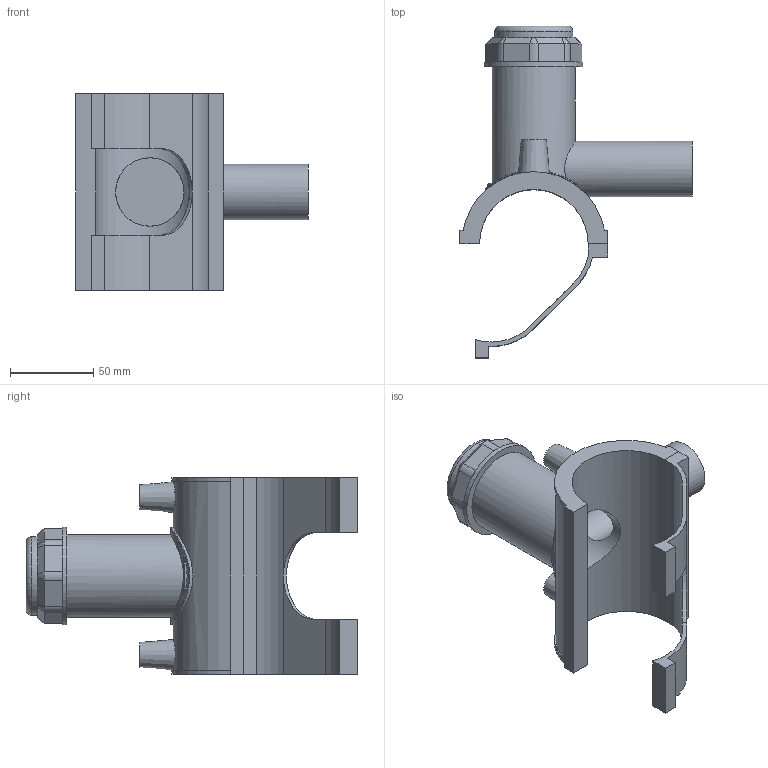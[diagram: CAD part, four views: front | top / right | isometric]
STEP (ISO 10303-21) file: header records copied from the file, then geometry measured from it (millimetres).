
FILE_DESCRIPTION(/* description */ ('PLASSON TAPPING SADDLE 2''''IPS x 1''''IPS'),/* implementation_level */ '2;1');
FILE_NAME(/* name */ 'C:\Dropbox\KIMPROJECTS-Inventor 2019\99-16-3568-Processing Inch\ASTM ElectroFusion 2021\5963B\5963BB03020010.ipt.stp',/* time_stamp */ '2021-08-30T09:55:01+03:00',/* author */ ('KIM'),/* organization */ (''),/* preprocessor_version */ 'ST-DEVELOPER v17.2',/* originating_system */ 'Autodesk Inventor 2019',/* authorisation */ '');
FILE_SCHEMA (('AUTOMOTIVE_DESIGN { 1 0 10303 214 3 1 1 }'));
Length unit declared in the file: millimetre
Products named in the file (1): 5963BB03020010
Bounding box: 139.45 x 198.92 x 118.11 mm (x, y, z)
Volume: 285503.2 mm3; surface area: 96901.6 mm2
Topology: 2 solids, 2 shells, 109 faces, 278 edges, 183 vertices
Faces by surface type: plane 64, cylinder 32, cone 11, torus 1, bspline 1
Full cylindrical faces by diameter (mm): 4 x2, 10 x2, 26.64 x1, 33.3 x1, 41.013 x1, 46.872 x1, 49.801 x1, 58.59 x1
Entity records: 3866 total; most frequent: CARTESIAN_POINT 1137, DIRECTION 565, ORIENTED_EDGE 556, EDGE_CURVE 278, AXIS2_PLACEMENT_3D 204, VERTEX_POINT 183, LINE 157, VECTOR 157
